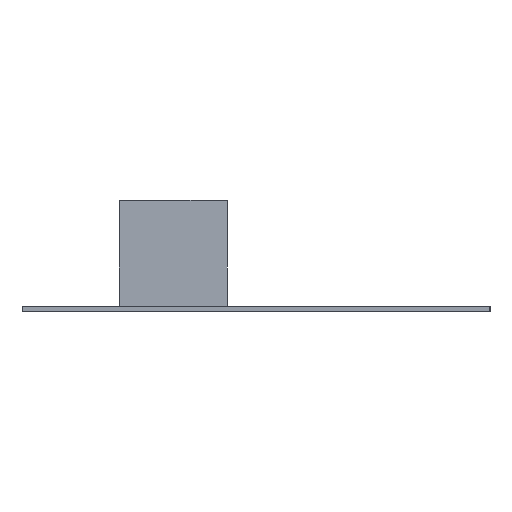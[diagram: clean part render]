
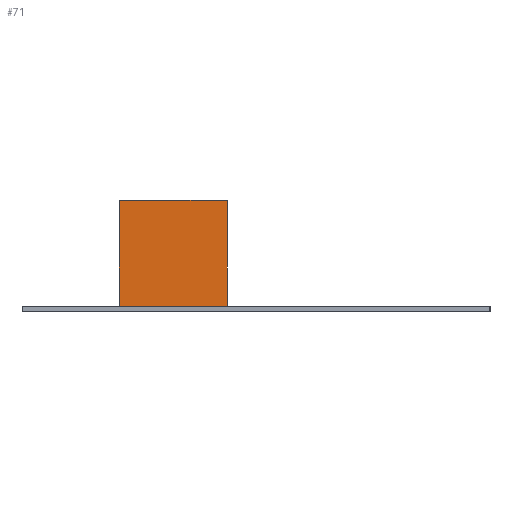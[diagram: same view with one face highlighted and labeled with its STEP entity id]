
A CAD part, left-side view. The second image highlights one B-rep face of the part: STEP entity #71.
In plain terms, the highlighted planar face has unit normal (-1, 0, 0).
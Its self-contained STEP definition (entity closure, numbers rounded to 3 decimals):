
#71=ADVANCED_FACE('',(#106),#1333,.T.);
#106=FACE_OUTER_BOUND('',#166,.T.);
#166=EDGE_LOOP('',(#319,#320,#321,#322));
#319=ORIENTED_EDGE('',*,*,#1064,.F.);
#320=ORIENTED_EDGE('',*,*,#1062,.F.);
#321=ORIENTED_EDGE('',*,*,#1066,.F.);
#322=ORIENTED_EDGE('',*,*,#1056,.F.);
#612=PCURVE('',#1328,#804);
#618=PCURVE('',#1329,#810);
#621=PCURVE('',#1330,#813);
#627=PCURVE('',#1332,#819);
#631=PCURVE('',#1333,#823);
#632=PCURVE('',#1333,#824);
#633=PCURVE('',#1333,#825);
#634=PCURVE('',#1333,#826);
#804=DEFINITIONAL_REPRESENTATION('',(#1154),#2758);
#810=DEFINITIONAL_REPRESENTATION('',(#1166),#2758);
#813=DEFINITIONAL_REPRESENTATION('',(#1171),#2758);
#819=DEFINITIONAL_REPRESENTATION('',(#1179),#2758);
#823=DEFINITIONAL_REPRESENTATION('',(#1183),#2758);
#824=DEFINITIONAL_REPRESENTATION('',(#1184),#2758);
#825=DEFINITIONAL_REPRESENTATION('',(#1185),#2758);
#826=DEFINITIONAL_REPRESENTATION('',(#1186),#2758);
#960=SURFACE_CURVE('',#1153,(#612,#634),.PCURVE_S1.);
#966=SURFACE_CURVE('',#1165,(#618,#632),.PCURVE_S1.);
#968=SURFACE_CURVE('',#1170,(#621,#631),.PCURVE_S1.);
#970=SURFACE_CURVE('',#1178,(#627,#633),.PCURVE_S1.);
#1056=EDGE_CURVE('',#1272,#1274,#960,.T.);
#1062=EDGE_CURVE('',#1270,#1268,#966,.T.);
#1064=EDGE_CURVE('',#1268,#1272,#968,.T.);
#1066=EDGE_CURVE('',#1274,#1270,#970,.T.);
#1153=B_SPLINE_CURVE_WITH_KNOTS('',1,(#2589,#2590),.UNSPECIFIED.,.F.,.F.,
(2,2),(-128.,-87.),.UNSPECIFIED.);
#1154=B_SPLINE_CURVE_WITH_KNOTS('',3,(#2591,#2592,#2593,#2594),
 .UNSPECIFIED.,.F.,.F.,(4,4),(-128.,-87.),.UNSPECIFIED.);
#1165=B_SPLINE_CURVE_WITH_KNOTS('',1,(#2617,#2618),.UNSPECIFIED.,.F.,.F.,
(2,2),(87.,128.),.UNSPECIFIED.);
#1166=B_SPLINE_CURVE_WITH_KNOTS('',1,(#2619,#2620),.UNSPECIFIED.,.F.,.F.,
(2,2),(87.,128.),.UNSPECIFIED.);
#1170=B_SPLINE_CURVE_WITH_KNOTS('',1,(#2627,#2628),.UNSPECIFIED.,.F.,.F.,
(2,2),(-41.,-0.744),.UNSPECIFIED.);
#1171=B_SPLINE_CURVE_WITH_KNOTS('',1,(#2629,#2630),.UNSPECIFIED.,.F.,.F.,
(2,2),(-41.,-0.744),.UNSPECIFIED.);
#1178=B_SPLINE_CURVE_WITH_KNOTS('',1,(#2643,#2644),.UNSPECIFIED.,.F.,.F.,
(2,2),(0.744,41.),.UNSPECIFIED.);
#1179=B_SPLINE_CURVE_WITH_KNOTS('',1,(#2645,#2646),.UNSPECIFIED.,.F.,.F.,
(2,2),(0.744,41.),.UNSPECIFIED.);
#1183=B_SPLINE_CURVE_WITH_KNOTS('',1,(#2653,#2654),.UNSPECIFIED.,.F.,.F.,
(2,2),(-41.,-0.744),.UNSPECIFIED.);
#1184=B_SPLINE_CURVE_WITH_KNOTS('',1,(#2655,#2656),.UNSPECIFIED.,.F.,.F.,
(2,2),(87.,128.),.UNSPECIFIED.);
#1185=B_SPLINE_CURVE_WITH_KNOTS('',1,(#2657,#2658),.UNSPECIFIED.,.F.,.F.,
(2,2),(0.744,41.),.UNSPECIFIED.);
#1186=B_SPLINE_CURVE_WITH_KNOTS('',1,(#2659,#2660),.UNSPECIFIED.,.F.,.F.,
(2,2),(-128.,-87.),.UNSPECIFIED.);
#1268=VERTEX_POINT('',#1858);
#1270=VERTEX_POINT('',#1860);
#1272=VERTEX_POINT('',#1862);
#1274=VERTEX_POINT('',#1864);
#1328=PLANE('',#1359);
#1329=PLANE('',#1360);
#1330=PLANE('',#1361);
#1332=PLANE('',#1363);
#1333=PLANE('',#1364);
#1359=AXIS2_PLACEMENT_3D('',#1603,#1373,$);
#1360=AXIS2_PLACEMENT_3D('',#1604,#1374,$);
#1361=AXIS2_PLACEMENT_3D('',#1605,#1375,$);
#1363=AXIS2_PLACEMENT_3D('',#1607,#1377,$);
#1364=AXIS2_PLACEMENT_3D('',#1608,#1378,$);
#1373=DIRECTION('',(0.,0.,1.));
#1374=DIRECTION('',(0.,0.,1.));
#1375=DIRECTION('',(0.,-1.,0.));
#1377=DIRECTION('',(0.,1.,0.));
#1378=DIRECTION('',(-1.,0.,0.));
#1603=CARTESIAN_POINT('',(327.,336.,-152.));
#1604=CARTESIAN_POINT('',(353.,435.8,-111.744));
#1605=CARTESIAN_POINT('',(353.,435.8,-152.744));
#1607=CARTESIAN_POINT('',(376.,476.8,-152.744));
#1608=CARTESIAN_POINT('',(353.,476.8,-152.744));
#1858=CARTESIAN_POINT('',(353.,435.8,-111.744));
#1860=CARTESIAN_POINT('',(353.,476.8,-111.744));
#1862=CARTESIAN_POINT('',(353.,435.8,-152.));
#1864=CARTESIAN_POINT('',(353.,476.8,-152.));
#2589=CARTESIAN_POINT('',(353.,435.8,-152.));
#2590=CARTESIAN_POINT('',(353.,476.8,-152.));
#2591=CARTESIAN_POINT('',(26.,99.8));
#2592=CARTESIAN_POINT('',(26.,113.467));
#2593=CARTESIAN_POINT('',(26.,127.133));
#2594=CARTESIAN_POINT('',(26.,140.8));
#2617=CARTESIAN_POINT('',(353.,476.8,-111.744));
#2618=CARTESIAN_POINT('',(353.,435.8,-111.744));
#2619=CARTESIAN_POINT('',(0.,41.));
#2620=CARTESIAN_POINT('',(0.,0.));
#2627=CARTESIAN_POINT('',(353.,435.8,-111.744));
#2628=CARTESIAN_POINT('',(353.,435.8,-152.));
#2629=CARTESIAN_POINT('',(0.,41.));
#2630=CARTESIAN_POINT('',(0.,0.744));
#2643=CARTESIAN_POINT('',(353.,476.8,-152.));
#2644=CARTESIAN_POINT('',(353.,476.8,-111.744));
#2645=CARTESIAN_POINT('',(87.,0.744));
#2646=CARTESIAN_POINT('',(87.,41.));
#2653=CARTESIAN_POINT('',(128.,41.));
#2654=CARTESIAN_POINT('',(128.,0.744));
#2655=CARTESIAN_POINT('',(87.,41.));
#2656=CARTESIAN_POINT('',(128.,41.));
#2657=CARTESIAN_POINT('',(87.,0.744));
#2658=CARTESIAN_POINT('',(87.,41.));
#2659=CARTESIAN_POINT('',(128.,0.744));
#2660=CARTESIAN_POINT('',(87.,0.744));
#2758=(
GEOMETRIC_REPRESENTATION_CONTEXT(2)
PARAMETRIC_REPRESENTATION_CONTEXT()
REPRESENTATION_CONTEXT('pspace','')
);
